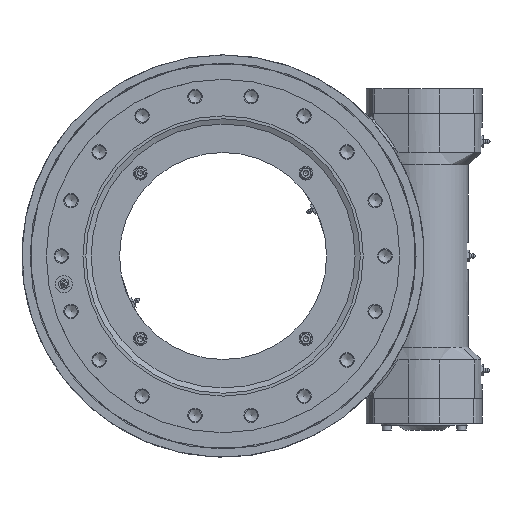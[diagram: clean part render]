
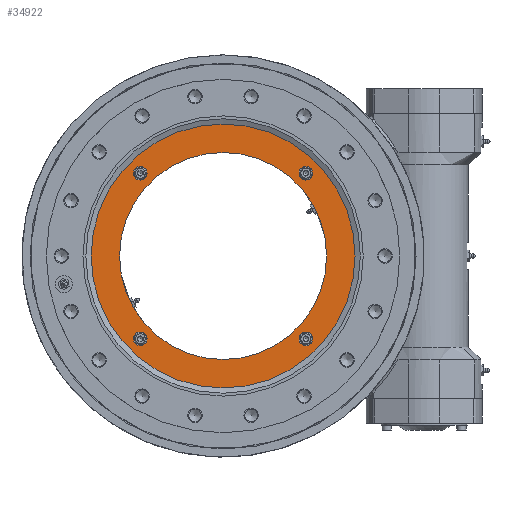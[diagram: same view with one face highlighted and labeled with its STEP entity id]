
A CAD part, left-side view. The second image highlights one B-rep face of the part: STEP entity #34922.
In plain terms, the highlighted planar face has unit normal (-1, 0, 0).
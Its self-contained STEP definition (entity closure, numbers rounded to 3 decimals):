
#387 = EDGE_LOOP ( 'NONE', ( #8528 ) ) ;
#855 = FACE_BOUND ( 'NONE', #10640, .T. ) ;
#1182 = AXIS2_PLACEMENT_3D ( 'NONE', #22943, #41897, #6392 ) ;
#2891 = FACE_OUTER_BOUND ( 'NONE', #28494, .T. ) ;
#3812 = CARTESIAN_POINT ( 'NONE',  ( -19., -91.57, 91.57 ) ) ;
#3941 = DIRECTION ( 'NONE',  ( 0., -1., 0. ) ) ;
#4346 = CARTESIAN_POINT ( 'NONE',  ( -19., 91.57, -91.57 ) ) ;
#4468 = VERTEX_POINT ( 'NONE', #22390 ) ;
#5943 = VERTEX_POINT ( 'NONE', #33722 ) ;
#6392 = DIRECTION ( 'NONE',  ( 0., -1., 0. ) ) ;
#7247 = DIRECTION ( 'NONE',  ( -1., 0., 0. ) ) ;
#7518 = VERTEX_POINT ( 'NONE', #13477 ) ;
#8181 = DIRECTION ( 'NONE',  ( -1., 0., 0. ) ) ;
#8479 = FACE_BOUND ( 'NONE', #387, .T. ) ;
#8528 = ORIENTED_EDGE ( 'NONE', *, *, #18327, .F. ) ;
#8551 = EDGE_LOOP ( 'NONE', ( #41529 ) ) ;
#9006 = FACE_BOUND ( 'NONE', #29234, .T. ) ;
#9061 = AXIS2_PLACEMENT_3D ( 'NONE', #4346, #30701, #33828 ) ;
#9310 = AXIS2_PLACEMENT_3D ( 'NONE', #3812, #7247, #3941 ) ;
#9493 = VERTEX_POINT ( 'NONE', #35305 ) ;
#10640 = EDGE_LOOP ( 'NONE', ( #11455 ) ) ;
#10700 = ORIENTED_EDGE ( 'NONE', *, *, #23384, .T. ) ;
#11303 = PLANE ( 'NONE',  #30977 ) ;
#11455 = ORIENTED_EDGE ( 'NONE', *, *, #14849, .F. ) ;
#13477 = CARTESIAN_POINT ( 'NONE',  ( -19., 84.07, 91.57 ) ) ;
#14048 = CARTESIAN_POINT ( 'NONE',  ( -19., -91.57, -91.57 ) ) ;
#14249 = AXIS2_PLACEMENT_3D ( 'NONE', #14048, #36561, #32902 ) ;
#14398 = EDGE_CURVE ( 'NONE', #4468, #4468, #27449, .T. ) ;
#14694 = EDGE_LOOP ( 'NONE', ( #16749 ) ) ;
#14849 = EDGE_CURVE ( 'NONE', #27302, #27302, #25868, .T. ) ;
#16116 = AXIS2_PLACEMENT_3D ( 'NONE', #17415, #40021, #20637 ) ;
#16475 = EDGE_CURVE ( 'NONE', #9493, #9493, #41770, .T. ) ;
#16630 = FACE_BOUND ( 'NONE', #14694, .T. ) ;
#16749 = ORIENTED_EDGE ( 'NONE', *, *, #14398, .F. ) ;
#17415 = CARTESIAN_POINT ( 'NONE',  ( -19., 0., 0. ) ) ;
#18327 = EDGE_CURVE ( 'NONE', #7518, #7518, #27174, .T. ) ;
#20637 = DIRECTION ( 'NONE',  ( 0., -1., 0. ) ) ;
#21427 = DIRECTION ( 'NONE',  ( 0., -1., 0. ) ) ;
#21514 = CARTESIAN_POINT ( 'NONE',  ( -19., 84.07, -91.57 ) ) ;
#22390 = CARTESIAN_POINT ( 'NONE',  ( -19., -114.5, 0. ) ) ;
#22671 = VERTEX_POINT ( 'NONE', #21514 ) ;
#22943 = CARTESIAN_POINT ( 'NONE',  ( -19., 0., 0. ) ) ;
#23384 = EDGE_CURVE ( 'NONE', #5943, #5943, #27827, .T. ) ;
#25868 = CIRCLE ( 'NONE', #14249, 7.5 ) ;
#27092 = AXIS2_PLACEMENT_3D ( 'NONE', #37562, #40377, #21427 ) ;
#27174 = CIRCLE ( 'NONE', #27092, 7.5 ) ;
#27302 = VERTEX_POINT ( 'NONE', #28968 ) ;
#27449 = CIRCLE ( 'NONE', #16116, 114.5 ) ;
#27458 = DIRECTION ( 'NONE',  ( 0., -1., 0. ) ) ;
#27827 = CIRCLE ( 'NONE', #1182, 154. ) ;
#28494 = EDGE_LOOP ( 'NONE', ( #10700 ) ) ;
#28648 = EDGE_CURVE ( 'NONE', #22671, #22671, #33985, .T. ) ;
#28968 = CARTESIAN_POINT ( 'NONE',  ( -19., -99.07, -91.57 ) ) ;
#29234 = EDGE_LOOP ( 'NONE', ( #41663 ) ) ;
#30701 = DIRECTION ( 'NONE',  ( -1., 0., 0. ) ) ;
#30977 = AXIS2_PLACEMENT_3D ( 'NONE', #34106, #8181, #27458 ) ;
#32848 = FACE_BOUND ( 'NONE', #8551, .T. ) ;
#32902 = DIRECTION ( 'NONE',  ( 0., -1., 0. ) ) ;
#33722 = CARTESIAN_POINT ( 'NONE',  ( -19., -154., 0. ) ) ;
#33828 = DIRECTION ( 'NONE',  ( 0., -1., 0. ) ) ;
#33985 = CIRCLE ( 'NONE', #9061, 7.5 ) ;
#34106 = CARTESIAN_POINT ( 'NONE',  ( -19., 0., 0. ) ) ;
#34922 = ADVANCED_FACE ( 'NONE', ( #16630, #9006, #855, #32848, #8479, #2891 ), #11303, .T. ) ;
#35305 = CARTESIAN_POINT ( 'NONE',  ( -19., -99.07, 91.57 ) ) ;
#36561 = DIRECTION ( 'NONE',  ( -1., 0., 0. ) ) ;
#37562 = CARTESIAN_POINT ( 'NONE',  ( -19., 91.57, 91.57 ) ) ;
#40021 = DIRECTION ( 'NONE',  ( -1., 0., 0. ) ) ;
#40377 = DIRECTION ( 'NONE',  ( -1., 0., 0. ) ) ;
#41529 = ORIENTED_EDGE ( 'NONE', *, *, #28648, .F. ) ;
#41663 = ORIENTED_EDGE ( 'NONE', *, *, #16475, .F. ) ;
#41770 = CIRCLE ( 'NONE', #9310, 7.5 ) ;
#41897 = DIRECTION ( 'NONE',  ( -1., 0., 0. ) ) ;
